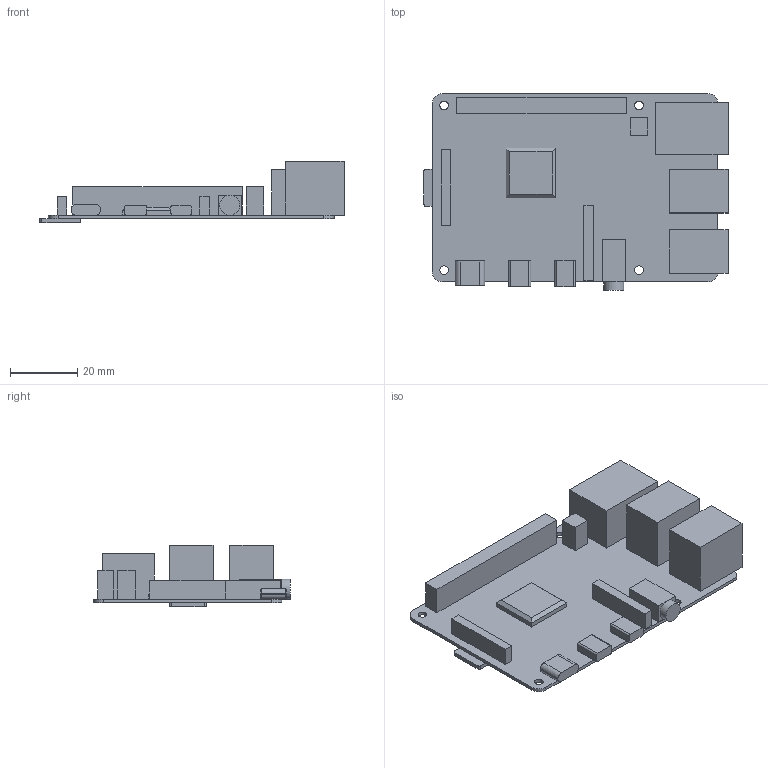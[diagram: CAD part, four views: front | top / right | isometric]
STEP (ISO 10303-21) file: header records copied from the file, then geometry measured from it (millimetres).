
FILE_DESCRIPTION(/* description */ (''),/* implementation_level */ '2;1');
FILE_NAME(/* name */ 'C:/Users/manzm/Documents/RPi_4_dummy.step',/* time_stamp */ '2019-07-29T20:09:55+02:00',/* author */ (''),/* organization */ (''),/* preprocessor_version */ 'ST-DEVELOPER v18',/* originating_system */ 'Autodesk Translation Framework v8.2.0.1029',/* authorisation */ '');
FILE_SCHEMA (('AUTOMOTIVE_DESIGN { 1 0 10303 214 3 1 1 }'));
Length unit declared in the file: millimetre
Products named in the file (14): RPi_4_dummy; Baseplate; Power USB C; Micro HDMI 2; 3.5 mm Audio; Micro HDMI 1; USB 2.0; Display; Processor; Ethernet ; Kamera; GPIO 40; USB 3.0; PoE
Assembly tree (13 placements, depth 2):
  RPi_4_dummy
    Baseplate
    Power USB C
    Micro HDMI 2
    3.5 mm Audio
    Micro HDMI 1
    USB 2.0
    Display
    Processor
    Ethernet 
    Kamera
    GPIO 40
    USB 3.0
    PoE
Bounding box: 90.5 x 58.5 x 18.2 mm (x, y, z)
Volume: 21186.7 mm3; surface area: 18627.8 mm2
Topology: 14 solids, 14 shells, 113 faces, 249 edges, 164 vertices
Faces by surface type: plane 90, cylinder 23
Full cylindrical faces by diameter (mm): 2.6 x4, 6 x1
Entity records: 3563 total; most frequent: DIRECTION 577, CARTESIAN_POINT 553, ORIENTED_EDGE 498, EDGE_CURVE 249, LINE 201, VECTOR 201, AXIS2_PLACEMENT_3D 188, VERTEX_POINT 164
